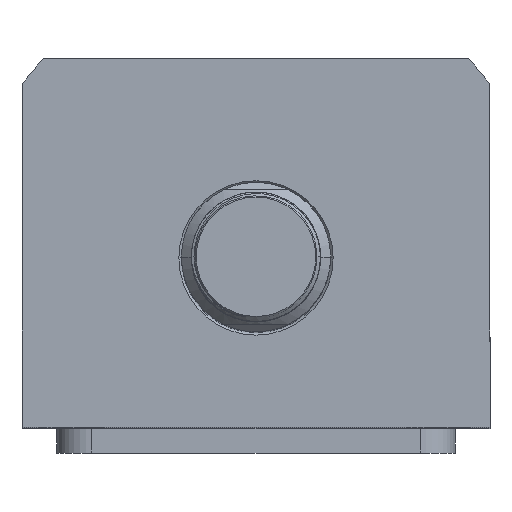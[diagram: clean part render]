
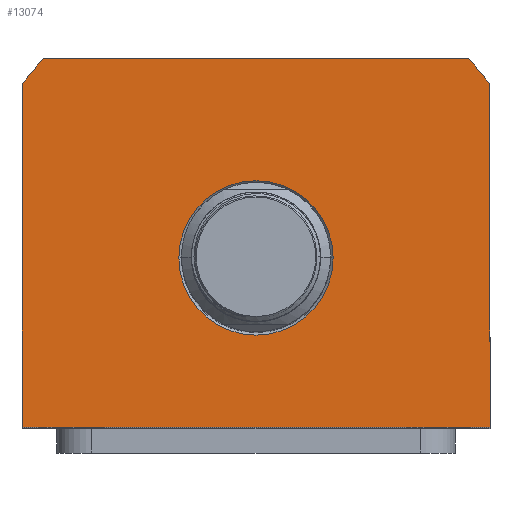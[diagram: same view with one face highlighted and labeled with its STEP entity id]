
A CAD part, top view. The second image highlights one B-rep face of the part: STEP entity #13074.
In plain terms, the highlighted planar face has unit normal (0, 0, 1).
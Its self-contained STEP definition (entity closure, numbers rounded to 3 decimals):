
#128 = CARTESIAN_POINT ( 'NONE',  ( 47., -34., 80. ) ) ;
#583 = VERTEX_POINT ( 'NONE', #872 ) ;
#872 = CARTESIAN_POINT ( 'NONE',  ( 47., 34.832, 80. ) ) ;
#1365 = DIRECTION ( 'NONE',  ( 1., 0., 0. ) ) ;
#1532 = VERTEX_POINT ( 'NONE', #7952 ) ;
#1958 = DIRECTION ( 'NONE',  ( 1., 0., 0. ) ) ;
#2123 = AXIS2_PLACEMENT_3D ( 'NONE', #9377, #9236, #10798 ) ;
#2144 = ORIENTED_EDGE ( 'NONE', *, *, #5680, .T. ) ;
#2466 = EDGE_LOOP ( 'NONE', ( #13335, #2144 ) ) ;
#2749 = EDGE_CURVE ( 'NONE', #6896, #7949, #3153, .T. ) ;
#3153 = CIRCLE ( 'NONE', #14559, 58.5 ) ;
#3616 = ORIENTED_EDGE ( 'NONE', *, *, #14773, .T. ) ;
#3766 = DIRECTION ( 'NONE',  ( 1., 0., 0. ) ) ;
#4206 = VERTEX_POINT ( 'NONE', #16330 ) ;
#4288 = VECTOR ( 'NONE', #15701, 1000. ) ;
#4531 = AXIS2_PLACEMENT_3D ( 'NONE', #18082, #16768, #15299 ) ;
#5059 = EDGE_CURVE ( 'NONE', #583, #10654, #9304, .T. ) ;
#5249 = DIRECTION ( 'NONE',  ( 0., 1., 0. ) ) ;
#5680 = EDGE_CURVE ( 'NONE', #1532, #9722, #16434, .T. ) ;
#5983 = PLANE ( 'NONE',  #18170 ) ;
#6324 = CARTESIAN_POINT ( 'NONE',  ( 42.688, 40., 80. ) ) ;
#6824 = CARTESIAN_POINT ( 'NONE',  ( 0., 0., 80. ) ) ;
#6896 = VERTEX_POINT ( 'NONE', #15703 ) ;
#6982 = VECTOR ( 'NONE', #16224, 1000. ) ;
#7949 = VERTEX_POINT ( 'NONE', #10932 ) ;
#7952 = CARTESIAN_POINT ( 'NONE',  ( -15.5, 0., 80. ) ) ;
#8608 = VERTEX_POINT ( 'NONE', #8645 ) ;
#8645 = CARTESIAN_POINT ( 'NONE',  ( -47., -34., 80. ) ) ;
#8857 = EDGE_LOOP ( 'NONE', ( #3616, #12506, #10171, #16519, #15569, #18358 ) ) ;
#9116 = CARTESIAN_POINT ( 'NONE',  ( 0., 0., 80. ) ) ;
#9236 = DIRECTION ( 'NONE',  ( 0., 0., -1. ) ) ;
#9304 = CIRCLE ( 'NONE', #4531, 58.5 ) ;
#9377 = CARTESIAN_POINT ( 'NONE',  ( 0., 0., 80. ) ) ;
#9693 = LINE ( 'NONE', #10954, #13758 ) ;
#9722 = VERTEX_POINT ( 'NONE', #13071 ) ;
#10042 = EDGE_CURVE ( 'NONE', #4206, #583, #9693, .T. ) ;
#10171 = ORIENTED_EDGE ( 'NONE', *, *, #5059, .T. ) ;
#10328 = LINE ( 'NONE', #128, #17714 ) ;
#10361 = FACE_OUTER_BOUND ( 'NONE', #8857, .T. ) ;
#10538 = EDGE_CURVE ( 'NONE', #9722, #1532, #12072, .T. ) ;
#10654 = VERTEX_POINT ( 'NONE', #6324 ) ;
#10798 = DIRECTION ( 'NONE',  ( 1., 0., 0. ) ) ;
#10932 = CARTESIAN_POINT ( 'NONE',  ( -47., 34.832, 80. ) ) ;
#10954 = CARTESIAN_POINT ( 'NONE',  ( 47., 34.832, 80. ) ) ;
#11068 = LINE ( 'NONE', #13270, #6982 ) ;
#11076 = AXIS2_PLACEMENT_3D ( 'NONE', #14830, #13486, #1365 ) ;
#12072 = CIRCLE ( 'NONE', #2123, 15.5 ) ;
#12506 = ORIENTED_EDGE ( 'NONE', *, *, #10042, .T. ) ;
#13013 = DIRECTION ( 'NONE',  ( 0., 0., 1. ) ) ;
#13071 = CARTESIAN_POINT ( 'NONE',  ( 15.5, 0., 80. ) ) ;
#13074 = ADVANCED_FACE ( 'NONE', ( #16076, #10361 ), #5983, .T. ) ;
#13270 = CARTESIAN_POINT ( 'NONE',  ( -42.688, 40., 80. ) ) ;
#13335 = ORIENTED_EDGE ( 'NONE', *, *, #10538, .T. ) ;
#13486 = DIRECTION ( 'NONE',  ( 0., 0., -1. ) ) ;
#13655 = DIRECTION ( 'NONE',  ( 1., 0., 0. ) ) ;
#13758 = VECTOR ( 'NONE', #5249, 1000. ) ;
#13781 = DIRECTION ( 'NONE',  ( 0., 0., 1. ) ) ;
#14559 = AXIS2_PLACEMENT_3D ( 'NONE', #6824, #13013, #3766 ) ;
#14773 = EDGE_CURVE ( 'NONE', #8608, #4206, #10328, .T. ) ;
#14830 = CARTESIAN_POINT ( 'NONE',  ( 0., 0., 80. ) ) ;
#15299 = DIRECTION ( 'NONE',  ( 1., 0., 0. ) ) ;
#15569 = ORIENTED_EDGE ( 'NONE', *, *, #2749, .T. ) ;
#15701 = DIRECTION ( 'NONE',  ( 0., -1., 0. ) ) ;
#15703 = CARTESIAN_POINT ( 'NONE',  ( -42.688, 40., 80. ) ) ;
#15840 = EDGE_CURVE ( 'NONE', #10654, #6896, #11068, .T. ) ;
#16076 = FACE_BOUND ( 'NONE', #2466, .T. ) ;
#16224 = DIRECTION ( 'NONE',  ( -1., 0., 0. ) ) ;
#16330 = CARTESIAN_POINT ( 'NONE',  ( 47., -34., 80. ) ) ;
#16434 = CIRCLE ( 'NONE', #11076, 15.5 ) ;
#16457 = LINE ( 'NONE', #17486, #4288 ) ;
#16519 = ORIENTED_EDGE ( 'NONE', *, *, #15840, .T. ) ;
#16768 = DIRECTION ( 'NONE',  ( 0., 0., 1. ) ) ;
#17486 = CARTESIAN_POINT ( 'NONE',  ( -47., -34., 80. ) ) ;
#17714 = VECTOR ( 'NONE', #1958, 1000. ) ;
#18082 = CARTESIAN_POINT ( 'NONE',  ( 0., 0., 80. ) ) ;
#18170 = AXIS2_PLACEMENT_3D ( 'NONE', #9116, #13781, #13655 ) ;
#18358 = ORIENTED_EDGE ( 'NONE', *, *, #19731, .T. ) ;
#19731 = EDGE_CURVE ( 'NONE', #7949, #8608, #16457, .T. ) ;
